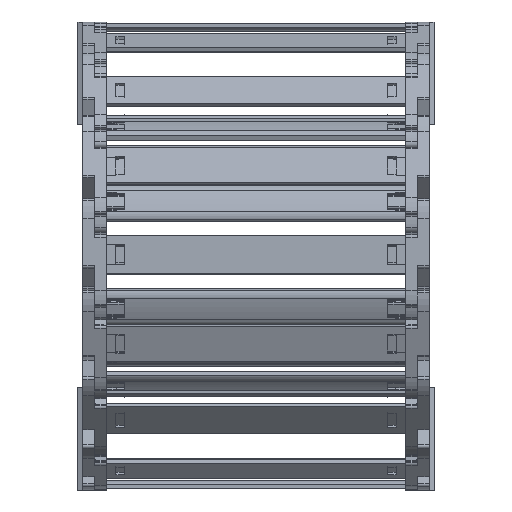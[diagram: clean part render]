
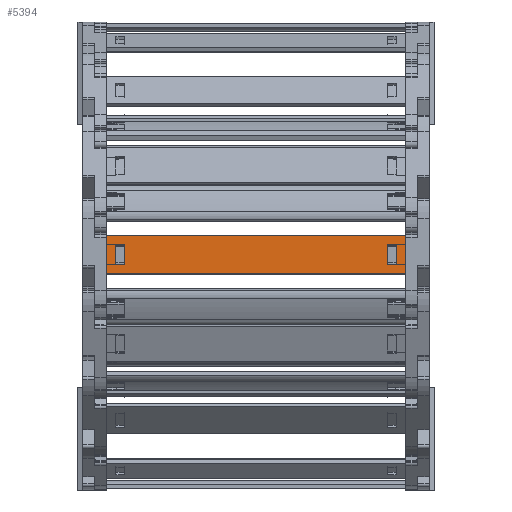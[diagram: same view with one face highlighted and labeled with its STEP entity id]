
A CAD part, left-side view. The second image highlights one B-rep face of the part: STEP entity #5394.
In plain terms, the highlighted planar face has unit normal (-1, 0, 0.007) as drawn and (0, 1, 0) by its records, which use the part's own axes.
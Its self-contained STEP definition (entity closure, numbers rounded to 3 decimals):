
#4814=DIRECTION('',(0.,0.,1.));
#4815=VECTOR('',#4814,15.8);
#4816=CARTESIAN_POINT('',(110.74,1.5,-7.9));
#4817=LINE('',#4816,#4815);
#4818=DIRECTION('',(-1.,0.,0.));
#4819=VECTOR('',#4818,125.5);
#4820=CARTESIAN_POINT('',(110.74,1.5,7.9));
#4821=LINE('',#4820,#4819);
#4822=DIRECTION('',(0.,0.,-1.));
#4823=VECTOR('',#4822,15.8);
#4824=CARTESIAN_POINT('',(-14.76,1.5,7.9));
#4825=LINE('',#4824,#4823);
#4826=DIRECTION('',(1.,0.,0.));
#4827=VECTOR('',#4826,3.648);
#4828=CARTESIAN_POINT('',(103.122,1.5,4.075));
#4829=LINE('',#4828,#4827);
#4830=DIRECTION('',(0.,0.,-1.));
#4831=VECTOR('',#4830,8.15);
#4832=CARTESIAN_POINT('',(106.77,1.5,4.075));
#4833=LINE('',#4832,#4831);
#4834=DIRECTION('',(-1.,0.,0.));
#4835=VECTOR('',#4834,3.648);
#4836=CARTESIAN_POINT('',(106.77,1.5,-4.075));
#4837=LINE('',#4836,#4835);
#4838=DIRECTION('',(0.,0.,-1.));
#4839=VECTOR('',#4838,8.15);
#4840=CARTESIAN_POINT('',(-7.142,1.5,4.075));
#4841=LINE('',#4840,#4839);
#4842=DIRECTION('',(-1.,0.,0.));
#4843=VECTOR('',#4842,3.648);
#4844=CARTESIAN_POINT('',(-7.142,1.5,-4.075));
#4845=LINE('',#4844,#4843);
#4846=DIRECTION('',(0.,0.,1.));
#4847=VECTOR('',#4846,8.15);
#4848=CARTESIAN_POINT('',(-10.79,1.5,-4.075));
#4849=LINE('',#4848,#4847);
#4850=DIRECTION('',(1.,0.,0.));
#4851=VECTOR('',#4850,3.648);
#4852=CARTESIAN_POINT('',(-10.79,1.5,4.075));
#4853=LINE('',#4852,#4851);
#4858=DIRECTION('',(-1.,0.,0.));
#4859=VECTOR('',#4858,125.5);
#4860=CARTESIAN_POINT('',(110.74,1.5,-7.9));
#4861=LINE('',#4860,#4859);
#4979=DIRECTION('',(0.,0.,-1.));
#4980=VECTOR('',#4979,8.15);
#4981=CARTESIAN_POINT('',(103.122,1.5,4.075));
#4982=LINE('',#4981,#4980);
#5164=CARTESIAN_POINT('',(106.77,1.5,4.075));
#5165=VERTEX_POINT('',#5164);
#5166=CARTESIAN_POINT('',(103.122,1.5,4.075));
#5167=VERTEX_POINT('',#5166);
#5208=CARTESIAN_POINT('',(103.122,1.5,-4.075));
#5209=VERTEX_POINT('',#5208);
#5210=CARTESIAN_POINT('',(106.77,1.5,-4.075));
#5211=VERTEX_POINT('',#5210);
#5212=CARTESIAN_POINT('',(110.74,1.5,7.9));
#5214=VERTEX_POINT('',#5212);
#5216=CARTESIAN_POINT('',(110.74,1.5,-7.9));
#5217=VERTEX_POINT('',#5216);
#5240=CARTESIAN_POINT('',(-7.142,1.5,4.075));
#5241=CARTESIAN_POINT('',(-7.142,1.5,-4.075));
#5242=VERTEX_POINT('',#5240);
#5243=VERTEX_POINT('',#5241);
#5244=CARTESIAN_POINT('',(-10.79,1.5,-4.075));
#5245=VERTEX_POINT('',#5244);
#5246=CARTESIAN_POINT('',(-10.79,1.5,4.075));
#5247=VERTEX_POINT('',#5246);
#5248=CARTESIAN_POINT('',(-14.76,1.5,7.9));
#5249=VERTEX_POINT('',#5248);
#5252=CARTESIAN_POINT('',(-14.76,1.5,-7.9));
#5253=VERTEX_POINT('',#5252);
#5363=CARTESIAN_POINT('',(142.48,1.5,10.061));
#5364=DIRECTION('',(0.,-1.,0.));
#5365=DIRECTION('',(0.,0.,-1.));
#5366=AXIS2_PLACEMENT_3D('',#5363,#5364,#5365);
#5367=PLANE('',#5366);
#5368=ORIENTED_EDGE('',*,*,#5302,.T.);
#5369=ORIENTED_EDGE('',*,*,#5328,.T.);
#5370=ORIENTED_EDGE('',*,*,#5341,.T.);
#5372=ORIENTED_EDGE('',*,*,#5371,.F.);
#5373=EDGE_LOOP('',(#5368,#5369,#5370,#5372));
#5374=FACE_OUTER_BOUND('',#5373,.F.);
#5376=ORIENTED_EDGE('',*,*,#5375,.F.);
#5377=ORIENTED_EDGE('',*,*,#5265,.T.);
#5379=ORIENTED_EDGE('',*,*,#5378,.T.);
#5381=ORIENTED_EDGE('',*,*,#5380,.T.);
#5382=EDGE_LOOP('',(#5376,#5377,#5379,#5381));
#5383=FACE_BOUND('',#5382,.F.);
#5385=ORIENTED_EDGE('',*,*,#5384,.T.);
#5387=ORIENTED_EDGE('',*,*,#5386,.T.);
#5389=ORIENTED_EDGE('',*,*,#5388,.T.);
#5391=ORIENTED_EDGE('',*,*,#5390,.T.);
#5392=EDGE_LOOP('',(#5385,#5387,#5389,#5391));
#5393=FACE_BOUND('',#5392,.F.);
#5394=ADVANCED_FACE('',(#5374,#5383,#5393),#5367,.F.);
#5265=EDGE_CURVE('',#5167,#5165,#4829,.T.);
#5302=EDGE_CURVE('',#5217,#5214,#4817,.T.);
#5328=EDGE_CURVE('',#5214,#5249,#4821,.T.);
#5341=EDGE_CURVE('',#5249,#5253,#4825,.T.);
#5371=EDGE_CURVE('',#5217,#5253,#4861,.T.);
#5375=EDGE_CURVE('',#5167,#5209,#4982,.T.);
#5378=EDGE_CURVE('',#5165,#5211,#4833,.T.);
#5380=EDGE_CURVE('',#5211,#5209,#4837,.T.);
#5384=EDGE_CURVE('',#5242,#5243,#4841,.T.);
#5386=EDGE_CURVE('',#5243,#5245,#4845,.T.);
#5388=EDGE_CURVE('',#5245,#5247,#4849,.T.);
#5390=EDGE_CURVE('',#5247,#5242,#4853,.T.);
